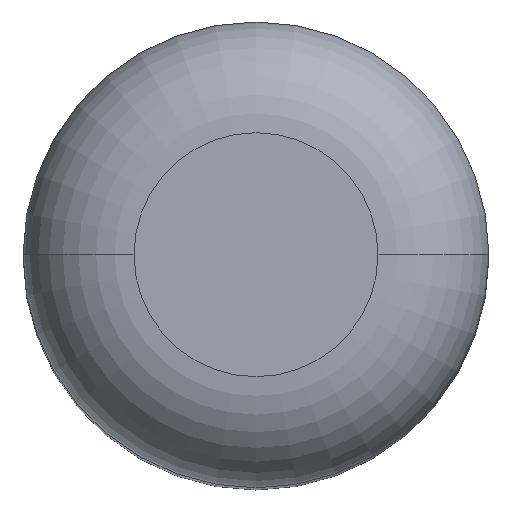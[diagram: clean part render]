
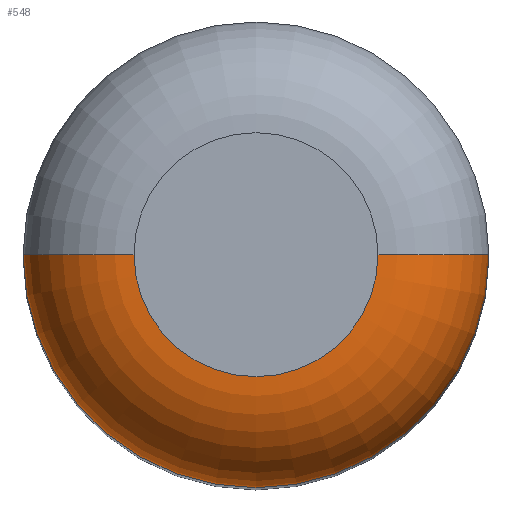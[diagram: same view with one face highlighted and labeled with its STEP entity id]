
A CAD part, top view. The second image highlights one B-rep face of the part: STEP entity #548.
In plain terms, the highlighted toroidal (fillet/blend) face has major radius 0.55 mm and minor radius 0.5 mm.
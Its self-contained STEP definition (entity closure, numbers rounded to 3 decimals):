
#15 = CARTESIAN_POINT ( 'NONE',  ( 0., 0., 2.6 ) ) ;
#25 = EDGE_CURVE ( 'NONE', #308, #103, #281, .T. ) ;
#42 = CARTESIAN_POINT ( 'NONE',  ( -0.55, 0., 3.1 ) ) ;
#62 = DIRECTION ( 'NONE',  ( 1., 0., 0. ) ) ;
#68 = CARTESIAN_POINT ( 'NONE',  ( 0., 0., 3.1 ) ) ;
#100 = CIRCLE ( 'NONE', #398, 0.5 ) ;
#102 = AXIS2_PLACEMENT_3D ( 'NONE', #15, #451, #178 ) ;
#103 = VERTEX_POINT ( 'NONE', #506 ) ;
#107 = EDGE_CURVE ( 'NONE', #156, #256, #479, .T. ) ;
#143 = DIRECTION ( 'NONE',  ( -1., 0., 0. ) ) ;
#156 = VERTEX_POINT ( 'NONE', #520 ) ;
#162 = DIRECTION ( 'NONE',  ( 0., 0., -1. ) ) ;
#178 = DIRECTION ( 'NONE',  ( 1., 0., 0. ) ) ;
#198 = CIRCLE ( 'NONE', #212, 0.5 ) ;
#209 = ORIENTED_EDGE ( 'NONE', *, *, #410, .T. ) ;
#210 = ORIENTED_EDGE ( 'NONE', *, *, #214, .F. ) ;
#212 = AXIS2_PLACEMENT_3D ( 'NONE', #334, #495, #162 ) ;
#214 = EDGE_CURVE ( 'NONE', #256, #308, #100, .T. ) ;
#240 = DIRECTION ( 'NONE',  ( 0., 0., 1. ) ) ;
#245 = DIRECTION ( 'NONE',  ( 1., 0., 0. ) ) ;
#256 = VERTEX_POINT ( 'NONE', #527 ) ;
#281 = CIRCLE ( 'NONE', #577, 0.55 ) ;
#308 = VERTEX_POINT ( 'NONE', #42 ) ;
#312 = DIRECTION ( 'NONE',  ( 0., 1., 0. ) ) ;
#334 = CARTESIAN_POINT ( 'NONE',  ( 0.55, 0., 2.6 ) ) ;
#398 = AXIS2_PLACEMENT_3D ( 'NONE', #472, #312, #143 ) ;
#410 = EDGE_CURVE ( 'NONE', #156, #103, #198, .T. ) ;
#451 = DIRECTION ( 'NONE',  ( 0., 0., 1. ) ) ;
#472 = CARTESIAN_POINT ( 'NONE',  ( -0.55, 0., 2.6 ) ) ;
#479 = CIRCLE ( 'NONE', #604, 1.05 ) ;
#495 = DIRECTION ( 'NONE',  ( 0., -1., 0. ) ) ;
#506 = CARTESIAN_POINT ( 'NONE',  ( 0.55, 0., 3.1 ) ) ;
#514 = EDGE_LOOP ( 'NONE', ( #210, #516, #209, #685 ) ) ;
#516 = ORIENTED_EDGE ( 'NONE', *, *, #107, .F. ) ;
#520 = CARTESIAN_POINT ( 'NONE',  ( 1.05, 0., 2.6 ) ) ;
#527 = CARTESIAN_POINT ( 'NONE',  ( -1.05, 0., 2.6 ) ) ;
#548 = ADVANCED_FACE ( 'NONE', ( #572 ), #680, .T. ) ;
#569 = CARTESIAN_POINT ( 'NONE',  ( 0., 0., 2.6 ) ) ;
#572 = FACE_OUTER_BOUND ( 'NONE', #514, .T. ) ;
#577 = AXIS2_PLACEMENT_3D ( 'NONE', #68, #240, #62 ) ;
#604 = AXIS2_PLACEMENT_3D ( 'NONE', #569, #666, #245 ) ;
#666 = DIRECTION ( 'NONE',  ( 0., 0., -1. ) ) ;
#680 = TOROIDAL_SURFACE ( 'NONE', #102, 0.55, 0.5 ) ;
#685 = ORIENTED_EDGE ( 'NONE', *, *, #25, .F. ) ;
